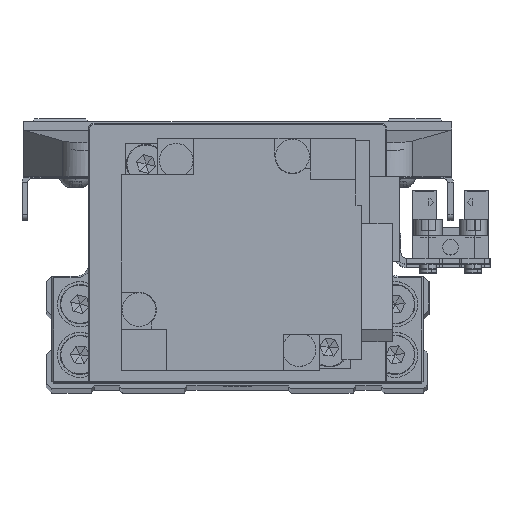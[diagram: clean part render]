
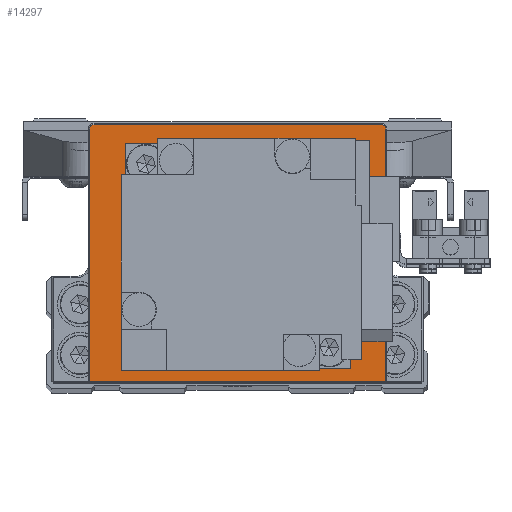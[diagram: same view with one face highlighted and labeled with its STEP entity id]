
A CAD part, top view. The second image highlights one B-rep face of the part: STEP entity #14297.
In plain terms, the highlighted planar face has unit normal (0, 0, 1) as drawn and (0, -1, 0) by its records, which use the part's own axes.
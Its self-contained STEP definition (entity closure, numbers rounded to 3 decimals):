
#390 = VECTOR ( 'NONE', #14488, 1000. ) ;
#1069 = ORIENTED_EDGE ( 'NONE', *, *, #19949, .T. ) ;
#1809 = AXIS2_PLACEMENT_3D ( 'NONE', #14404, #26244, #38049 ) ;
#2230 = CIRCLE ( 'NONE', #23931, 0.8 ) ;
#2398 = VERTEX_POINT ( 'NONE', #20940 ) ;
#2585 = PLANE ( 'NONE',  #1809 ) ;
#2665 = CARTESIAN_POINT ( 'NONE',  ( -25.5, -4., 22.8 ) ) ;
#3507 = AXIS2_PLACEMENT_3D ( 'NONE', #32215, #5623, #17472 ) ;
#3983 = DIRECTION ( 'NONE',  ( 1., 0., 0. ) ) ;
#5395 = LINE ( 'NONE', #17249, #5474 ) ;
#5474 = VECTOR ( 'NONE', #29081, 1000. ) ;
#5623 = DIRECTION ( 'NONE',  ( 0., -1., 0. ) ) ;
#6416 = CARTESIAN_POINT ( 'NONE',  ( -25.5, -4., 22.8 ) ) ;
#6763 = DIRECTION ( 'NONE',  ( 0., 0., 1. ) ) ;
#8245 = DIRECTION ( 'NONE',  ( 0., -1., 0. ) ) ;
#9188 = VECTOR ( 'NONE', #3983, 1000. ) ;
#9499 = EDGE_CURVE ( 'NONE', #11919, #2398, #18748, .T. ) ;
#10316 = VERTEX_POINT ( 'NONE', #6416 ) ;
#10355 = CARTESIAN_POINT ( 'NONE',  ( -26.3, -4., 22. ) ) ;
#11919 = VERTEX_POINT ( 'NONE', #31024 ) ;
#12929 = ORIENTED_EDGE ( 'NONE', *, *, #28702, .T. ) ;
#14297 = ADVANCED_FACE ( 'NONE', ( #29165 ), #2585, .T. ) ;
#14404 = CARTESIAN_POINT ( 'NONE',  ( 0., -4., 0. ) ) ;
#14488 = DIRECTION ( 'NONE',  ( -1., 0., 0. ) ) ;
#15661 = ORIENTED_EDGE ( 'NONE', *, *, #19174, .T. ) ;
#17249 = CARTESIAN_POINT ( 'NONE',  ( -26.3, -4., -23. ) ) ;
#17472 = DIRECTION ( 'NONE',  ( 0., 0., -1. ) ) ;
#17616 = VERTEX_POINT ( 'NONE', #29469 ) ;
#18748 = LINE ( 'NONE', #30567, #9188 ) ;
#18808 = EDGE_LOOP ( 'NONE', ( #35414, #1069, #32885, #15661, #31726, #12929 ) ) ;
#19174 = EDGE_CURVE ( 'NONE', #24409, #10316, #29247, .T. ) ;
#19949 = EDGE_CURVE ( 'NONE', #2398, #17616, #21519, .T. ) ;
#20107 = DIRECTION ( 'NONE',  ( 0., 0., -1. ) ) ;
#20257 = CIRCLE ( 'NONE', #3507, 0.8 ) ;
#20940 = CARTESIAN_POINT ( 'NONE',  ( 26.3, -4., -22.8 ) ) ;
#21519 = LINE ( 'NONE', #33339, #33288 ) ;
#23931 = AXIS2_PLACEMENT_3D ( 'NONE', #34822, #8245, #20107 ) ;
#24409 = VERTEX_POINT ( 'NONE', #37997 ) ;
#24981 = VERTEX_POINT ( 'NONE', #10355 ) ;
#25539 = EDGE_CURVE ( 'NONE', #10316, #24981, #20257, .T. ) ;
#26244 = DIRECTION ( 'NONE',  ( 0., -1., 0. ) ) ;
#26320 = EDGE_CURVE ( 'NONE', #17616, #24409, #2230, .T. ) ;
#28702 = EDGE_CURVE ( 'NONE', #24981, #11919, #5395, .T. ) ;
#29081 = DIRECTION ( 'NONE',  ( 0., 0., -1. ) ) ;
#29165 = FACE_OUTER_BOUND ( 'NONE', #18808, .T. ) ;
#29247 = LINE ( 'NONE', #2665, #390 ) ;
#29469 = CARTESIAN_POINT ( 'NONE',  ( 26.3, -4., 22. ) ) ;
#30567 = CARTESIAN_POINT ( 'NONE',  ( 26.5, -4., -22.8 ) ) ;
#31024 = CARTESIAN_POINT ( 'NONE',  ( -26.3, -4., -22.8 ) ) ;
#31726 = ORIENTED_EDGE ( 'NONE', *, *, #25539, .T. ) ;
#32215 = CARTESIAN_POINT ( 'NONE',  ( -25.5, -4., 22. ) ) ;
#32885 = ORIENTED_EDGE ( 'NONE', *, *, #26320, .T. ) ;
#33288 = VECTOR ( 'NONE', #6763, 1000. ) ;
#33339 = CARTESIAN_POINT ( 'NONE',  ( 26.3, -4., 22. ) ) ;
#34822 = CARTESIAN_POINT ( 'NONE',  ( 25.5, -4., 22. ) ) ;
#35414 = ORIENTED_EDGE ( 'NONE', *, *, #9499, .T. ) ;
#37997 = CARTESIAN_POINT ( 'NONE',  ( 25.5, -4., 22.8 ) ) ;
#38049 = DIRECTION ( 'NONE',  ( 0., 0., -1. ) ) ;
